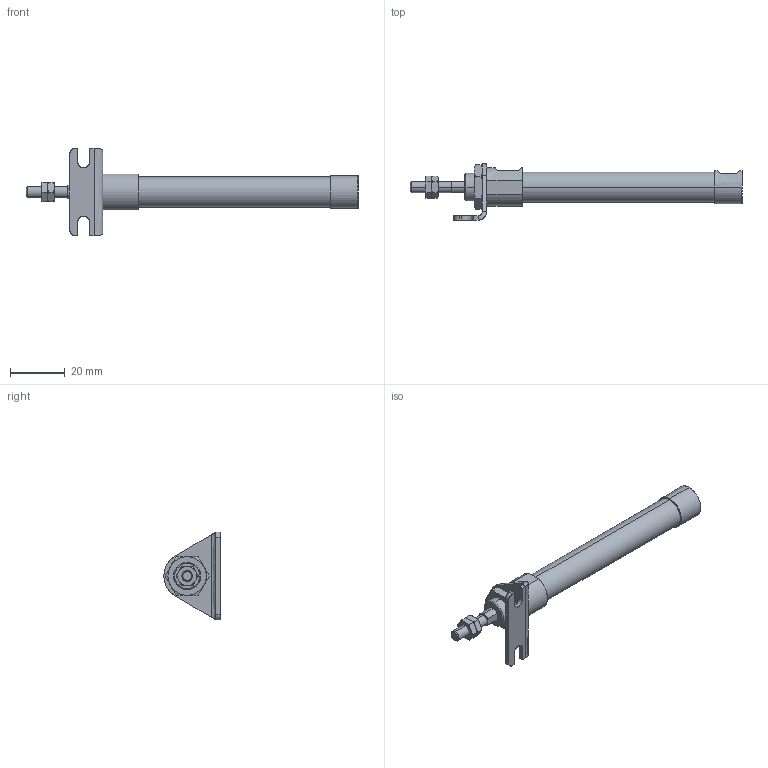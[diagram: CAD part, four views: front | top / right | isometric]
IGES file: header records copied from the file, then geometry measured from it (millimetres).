
Start section: SolidWorks IGES file using analytic representation for surfaces
Global section: file name: C:\Users\Toshiba\Desktop\ZGU2-10-45-L.IGS; native system: SolidWorks 2014; preprocessor: SolidWorks 2014; author: Toshiba; date: 160331.085324; units: millimetre
Bounding box: 121 x 20.5 x 32 mm (x, y, z)
Surface area: 6554.9 mm2 (no closed solid volume)
Topology: 0 solids, 0 shells, 134 faces, 1934 edges, 1930 vertices
Faces by surface type: bspline 94, revolution 40
